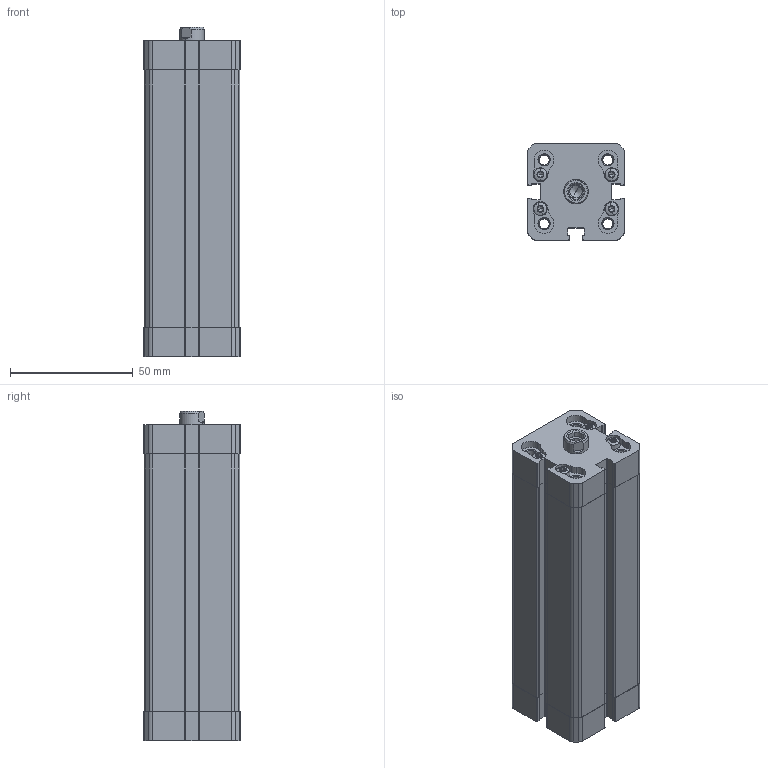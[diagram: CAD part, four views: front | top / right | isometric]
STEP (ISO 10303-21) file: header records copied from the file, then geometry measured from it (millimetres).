
FILE_DESCRIPTION (( 'STEP AP214' ), '1' );
FILE_NAME ('WPCC-025-0090 (3D).STEP', '2023-05-29T10:46:09', ( '' ), ( '' ), 'SwSTEP 2.0', 'SolidWorks 2015', '' );
FILE_SCHEMA (( 'AUTOMOTIVE_DESIGN' ));
Length unit declared in the file: inch
Products named in the file (3): WPCC-025-0090 (3D); Group1^Assem1; Group2^Assem1
Assembly tree (2 placements, depth 2):
  WPCC-025-0090 (3D)
    Group1^Assem1
    Group2^Assem1
Bounding box: 39.5 x 39.5 x 134.5 mm (x, y, z)
Volume: 131532 mm3; surface area: 57862.6 mm2
Topology: 12 solids, 12 shells, 803 faces, 2098 edges, 1330 vertices
Faces by surface type: cylinder 364, plane 241, cone 154, bspline 28, torus 16
Entity records: 28096 total; most frequent: CARTESIAN_POINT 7276, ORIENTED_EDGE 4156, DIRECTION 3964, EDGE_CURVE 2078, AXIS2_PLACEMENT_3D 1450, VERTEX_POINT 1330, VECTOR 1064, LINE 1064
